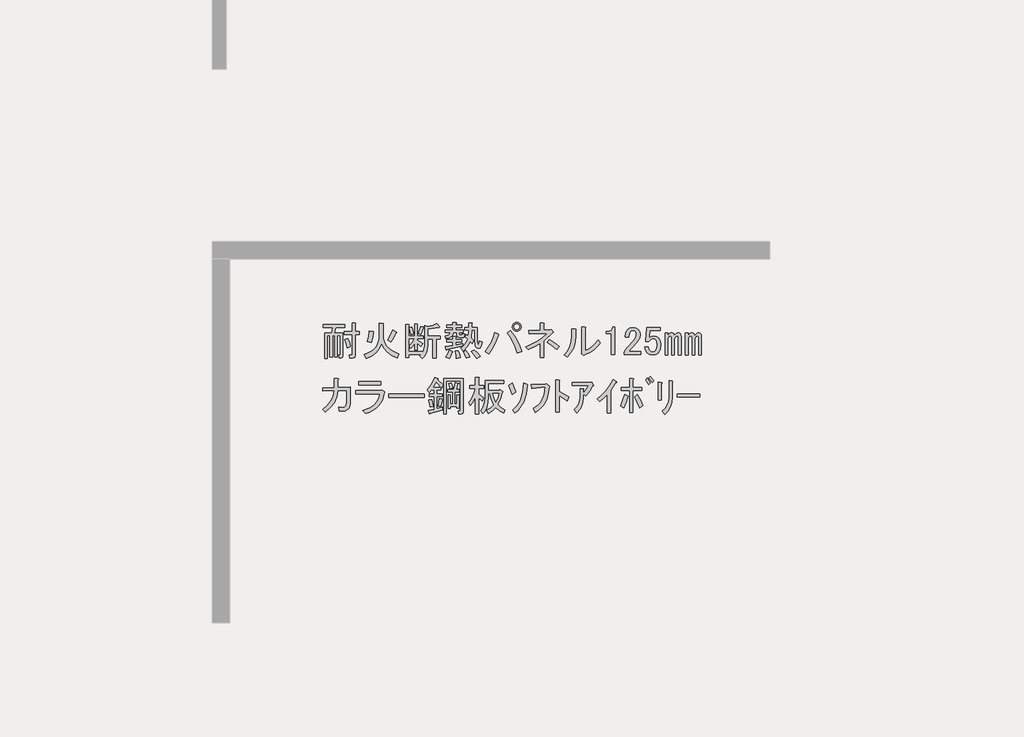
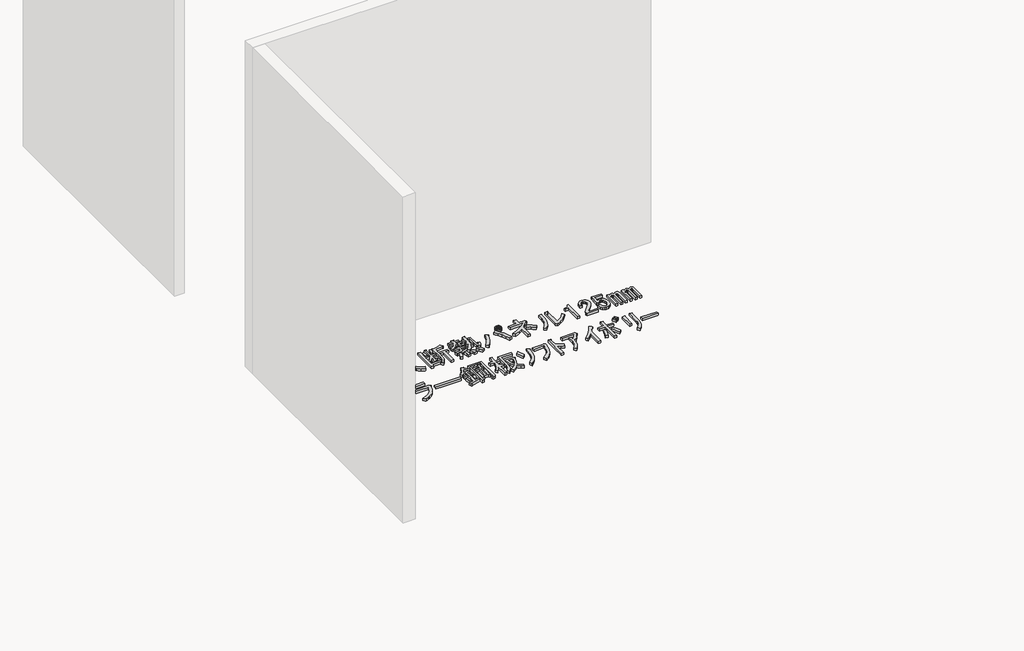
# One storey, part 109 of 117: 1 proxy.
"""IFC4 building model written with IfcOpenShell, lengths in millimetres."""

from ifc_helpers import new_model, si_unit, frame, origin, place, context, project, spatial, polyline, outline, extrude, element, save

model = new_model("IFC4")

# Units and contexts
model_context = context("Model", 3, world=origin())
ifc_project = project(units=[si_unit("LENGTHUNIT", "METRE", prefix="MILLI")], contexts=[model_context])

# Site, building, storey
site = spatial("IfcSite", under=ifc_project)
building = spatial("IfcBuilding", under=site)
storey = spatial("IfcBuildingStorey", under=building, Name="レベル 1", Elevation=500.0)

# Proxy
placement = place(None, origin())
element("IfcBuildingElementProxy", 1, Name="200㎜\u3000MS Pゴシック", ObjectType="200㎜\u3000MS Pゴシック", at=placement, inside=storey, context=model_context, shape_type="SweptSolid", body=[
    extrude(outline(polyline([(56978.5674486, 7229.3142262), (56971.0959694, 7259.7748726), (56960.176115, 7289.0860605), (56982.0158237, 7297.132269), (56994.372501, 7267.5337164), (57001.5566157, 7238.5098931), (56978.5674486, 7229.3142262)])), frame((0.0, 0.0, 500.0), z_axis=(0.0, 0.0, 1.0), x_axis=(1.0, 0.0, 0.0)), (0.0, 0.0, 1.0), 25.0),
    extrude(outline(polyline([(56887.7602388, 7320.121436), (56871.6678219, 7320.121436), (56871.6678219, 7164.9445585), (56852.1270299, 7164.9445585), (56852.1270299, 7320.121436), (56833.7356963, 7320.121436), (56833.7356963, 7152.3005167), (56814.1949043, 7152.3005167), (56814.1949043, 7338.5127697), (56865.9205301, 7338.5127697), (56871.6678219, 7377.5943537), (56804.9992375, 7377.5943537), (56804.9992375, 7399.4340623), (56960.176115, 7399.4340623), (56960.176115, 7377.5943537), (56895.8064473, 7377.5943537), (56885.4613221, 7338.5127697), (56946.3826148, 7338.5127697), (56946.3826148, 7170.6918503), (56942.3595106, 7158.6225376), (56930.2901979, 7154.5994334), (56919.9450727, 7154.5994334), (56915.3472393, 7176.439142), (56922.2439894, 7176.439142), (56925.6923645, 7177.5886004), (56926.8418228, 7181.0369755), (56926.8418228, 7320.121436), (56907.3010308, 7320.121436), (56907.3010308, 7164.9445585), (56887.7602388, 7164.9445585), (56887.7602388, 7320.121436)])), frame((0.0, 0.0, 500.0), z_axis=(0.0, 0.0, 1.0), x_axis=(1.0, 0.0, 0.0)), (0.0, 0.0, 1.0), 25.0),
    extrude(outline(polyline([(56956.72774, 7325.8687278), (56956.72774, 7347.7084365), (57013.0511992, 7347.7084365), (57013.0511992, 7409.7791875), (57034.8909079, 7409.7791875), (57039.7761059, 7407.4802708), (57036.0403663, 7402.8824374), (57036.0403663, 7347.7084365), (57064.7768251, 7347.7084365), (57064.7768251, 7325.8687278), (57036.0403663, 7325.8687278), (57036.0403663, 7172.990767), (57031.4425328, 7159.1972668), (57017.6490326, 7154.5994334), (56994.6598656, 7154.5994334), (56991.2114905, 7176.439142), (57008.4533658, 7176.439142), (57011.9017409, 7177.5886004), (57013.0511992, 7181.0369755), (57013.0511992, 7325.8687278), (56956.72774, 7325.8687278)])), frame((0.0, 0.0, 500.0), z_axis=(0.0, 0.0, 1.0), x_axis=(1.0, 0.0, 0.0)), (0.0, 0.0, 1.0), 25.0),
    extrude(outline(polyline([(57226.8504527, 7261.4990601), (57210.9017181, 7226.6561038), (57187.1941395, 7196.8420278), (57155.7277172, 7172.0568321), (57116.5024509, 7152.3005167), (57102.7089507, 7181.0369755), (57128.032955, 7190.71757), (57149.9804254, 7202.5174784), (57168.5513619, 7216.4367006), (57183.7457645, 7232.4752367), (57195.5636332, 7250.6330866), (57204.0049679, 7270.9102504), (57209.0697688, 7293.3067279), (57210.7580358, 7317.8225193), (57210.7580358, 7408.6297292), (57237.1955779, 7406.3308125), (57240.6439529, 7402.8824374), (57237.1955779, 7397.1351456), (57237.1955779, 7317.8225193), (57238.9916065, 7296.377937), (57244.3796926, 7276.2983364), (57253.3598359, 7257.5837176), (57265.9320367, 7240.2340806), (57282.0962947, 7224.2494254), (57301.8526102, 7209.629752), (57352.1414131, 7184.4853505), (57340.6468295, 7155.7488917), (57301.2060398, 7175.2896837), (57269.0930471, 7199.4283091), (57244.3078514, 7228.1647679), (57226.8504527, 7261.4990601)])), frame((0.0, 0.0, 500.0), z_axis=(0.0, 0.0, 1.0), x_axis=(1.0, 0.0, 0.0)), (0.0, 0.0, 1.0), 25.0),
    extrude(outline(polyline([(57330.3017044, 7337.3633113), (57310.1861832, 7297.9943628), (57293.5190371, 7271.8441853), (57270.5298701, 7286.7871438), (57290.3580266, 7318.3972485), (57308.4619957, 7358.0535617), (57333.7500794, 7345.4095198), (57336.3363607, 7341.6737801), (57330.3017044, 7337.3633113)])), frame((0.0, 0.0, 500.0), z_axis=(0.0, 0.0, 1.0), x_axis=(1.0, 0.0, 0.0)), (0.0, 0.0, 1.0), 25.0),
    extrude(outline(polyline([(57122.2497427, 7276.4420187), (57134.0316908, 7310.6384046), (57137.1927012, 7353.4557283), (57165.92916, 7346.5589781), (57170.5269934, 7342.8232385), (57165.92916, 7338.5127697), (57162.1934204, 7304.0290191), (57150.9862015, 7267.2463519), (57122.2497427, 7276.4420187)])), frame((0.0, 0.0, 500.0), z_axis=(0.0, 0.0, 1.0), x_axis=(1.0, 0.0, 0.0)), (0.0, 0.0, 1.0), 25.0),
    extrude(outline(polyline([(57647.5522095, 7381.0427287), (57645.828022, 7376.4448953), (57638.3565427, 7378.743812), (57561.3428331, 7366.0997701), (57561.3428331, 7316.673061), (57653.2995013, 7316.673061), (57653.2995013, 7294.8333523), (57622.2641258, 7294.8333523), (57622.2641258, 7154.5994334), (57599.2749588, 7154.5994334), (57599.2749588, 7294.8333523), (57561.3428331, 7294.8333523), (57561.3428331, 7245.4066432), (57558.7565518, 7217.6041193), (57550.997708, 7192.8189236), (57538.0663015, 7171.051056), (57519.9623325, 7152.3005167), (57502.7204572, 7171.8413086), (57513.0655823, 7181.0369755), (57423.4078309, 7181.0369755), (57423.4078309, 7159.1972668), (57400.4186638, 7159.1972668), (57400.4186638, 7398.284604), (57422.2583725, 7398.284604), (57427.1435705, 7395.9856873), (57423.4078309, 7391.3878539), (57423.4078309, 7315.5236026), (57465.9377899, 7315.5236026), (57465.9377899, 7402.8824374), (57484.3291235, 7402.8824374), (57489.2143215, 7400.5835207), (57485.4785819, 7395.9856873), (57485.4785819, 7315.5236026), (57529.1579993, 7315.5236026), (57529.1579993, 7297.132269), (57485.4785819, 7297.132269), (57485.4785819, 7287.9366022), (57525.7096242, 7261.4990601), (57511.916124, 7239.6593514), (57485.4785819, 7266.0968935), (57485.4785819, 7213.2218093), (57465.9377899, 7213.2218093), (57465.9377899, 7261.4990601), (57452.7190189, 7241.6709035), (57438.3507895, 7225.8658512), (57425.7067476, 7244.2571848), (57447.5464563, 7268.3958102), (57464.7883316, 7297.132269), (57423.4078309, 7297.132269), (57423.4078309, 7202.8766841), (57521.1117908, 7202.8766841), (57521.1117908, 7189.0831839), (57534.0431973, 7213.2218093), (57538.3536661, 7246.5561015), (57538.3536661, 7391.3878539), (57560.1933748, 7385.6405621), (57596.4013129, 7393.1120414), (57626.8619592, 7406.3308125), (57647.5522095, 7381.0427287)])), frame((0.0, 0.0, 500.0), z_axis=(0.0, 0.0, 1.0), x_axis=(1.0, 0.0, 0.0)), (0.0, 0.0, 1.0), 25.0),
    extrude(outline(polyline([(57493.5247904, 7332.7654779), (57510.7666656, 7385.6405621), (57531.456916, 7379.8932704), (57533.1811035, 7376.7322599), (57529.1579993, 7374.1459786), (57511.916124, 7325.8687278), (57493.5247904, 7332.7654779)])), frame((0.0, 0.0, 500.0), z_axis=(0.0, 0.0, 1.0), x_axis=(1.0, 0.0, 0.0)), (0.0, 0.0, 1.0), 25.0),
    extrude(outline(polyline([(57439.5002478, 7324.7192695), (57426.8562059, 7375.2954369), (57446.3969979, 7382.1921871), (57454.1558418, 7358.0535617), (57459.0410398, 7331.6160196), (57439.5002478, 7324.7192695)])), frame((0.0, 0.0, 500.0), z_axis=(0.0, 0.0, 1.0), x_axis=(1.0, 0.0, 0.0)), (0.0, 0.0, 1.0), 25.0),
    extrude(outline(polyline([(57770.5442532, 7340.8116864), (57745.2561695, 7340.8116864), (57740.6583361, 7323.3542877), (57730.3132109, 7310.0636755), (57714.220794, 7300.9398498), (57692.3810853, 7295.9828107), (57687.7832519, 7315.5236026), (57713.0713356, 7324.1445403), (57720.5428149, 7331.4723373), (57724.5659191, 7340.8116864), (57688.9327102, 7340.8116864), (57688.9327102, 7359.20302), (57742.9572528, 7359.20302), (57742.9572528, 7376.4448953), (57699.2778354, 7376.4448953), (57699.2778354, 7394.8362289), (57742.9572528, 7394.8362289), (57742.9572528, 7413.2275626), (57764.7969614, 7413.2275626), (57769.6821594, 7410.9286459), (57765.9464198, 7406.3308125), (57765.9464198, 7394.8362289), (57808.4763788, 7394.8362289), (57808.4763788, 7376.4448953), (57765.9464198, 7376.4448953), (57765.9464198, 7359.20302), (57818.821504, 7359.20302), (57818.821504, 7340.8116864), (57790.0850452, 7340.8116864), (57790.0850452, 7328.1676445), (57791.5218681, 7322.9950819), (57795.832337, 7321.2708944), (57806.1774621, 7321.2708944), (57809.9132018, 7324.4319049), (57809.6258372, 7333.9149363), (57829.1666292, 7331.6160196), (57826.2929833, 7310.0636755), (57820.9767384, 7304.6755894), (57813.0742122, 7302.8795608), (57788.9355868, 7302.8795608), (57775.1420866, 7307.7647588), (57770.5442532, 7322.4203528), (57770.5442532, 7340.8116864)])), frame((0.0, 0.0, 500.0), z_axis=(0.0, 0.0, 1.0), x_axis=(1.0, 0.0, 0.0)), (0.0, 0.0, 1.0), 25.0),
    extrude(outline(polyline([(57901.5825053, 7358.0535617), (57879.7427966, 7358.0535617), (57875.1449632, 7300.5806441), (57894.6857552, 7282.1893104), (57884.3406301, 7260.3496017), (57868.2482131, 7276.4420187), (57848.9947857, 7238.7972576), (57818.821504, 7206.3250592), (57801.5796287, 7227.0153095), (57816.6662696, 7238.9409399), (57829.7413583, 7254.0275808), (57840.804895, 7272.2752321), (57849.8568795, 7293.683894), (57832.6150042, 7308.6268525), (57840.6612127, 7325.8687278), (57854.4547129, 7315.5236026), (57856.7536296, 7358.0535617), (57829.1666292, 7358.0535617), (57829.1666292, 7376.4448953), (57856.7536296, 7376.4448953), (57856.7536296, 7410.9286459), (57878.5933383, 7410.9286459), (57883.4785363, 7408.6297292), (57879.7427966, 7404.0318957), (57879.7427966, 7376.4448953), (57921.1232973, 7376.4448953), (57921.1232973, 7279.8903937), (57924.5716724, 7255.7517683), (57927.804524, 7253.7402162), (57930.6063287, 7256.9012267), (57934.9167975, 7278.7409354), (57954.4575895, 7271.8441853), (57949.9315973, 7245.0474374), (57942.1009122, 7229.0268616), (57930.9655345, 7223.7824579), (57916.5254639, 7229.3142262), (57909.9879195, 7236.6420232), (57905.318245, 7248.280289), (57901.5825053, 7284.4882271), (57901.5825053, 7358.0535617)])), frame((0.0, 0.0, 500.0), z_axis=(0.0, 0.0, 1.0), x_axis=(1.0, 0.0, 0.0)), (0.0, 0.0, 1.0), 25.0),
    extrude(outline(polyline([(57700.4272937, 7218.9691011), (57698.4157416, 7214.0839031), (57694.680002, 7215.520726), (57688.9327102, 7239.6593514), (57744.1067111, 7247.7055599), (57744.1067111, 7270.6947269), (57700.4272937, 7270.6947269), (57700.4272937, 7289.0860605), (57744.1067111, 7289.0860605), (57744.1067111, 7312.0752276), (57762.4980447, 7312.0752276), (57767.3832427, 7309.7763109), (57763.6475031, 7305.1784775), (57763.6475031, 7289.0860605), (57808.4763788, 7289.0860605), (57808.4763788, 7270.6947269), (57763.6475031, 7270.6947269), (57763.6475031, 7251.1539349), (57814.2236706, 7260.3496017), (57814.2236706, 7244.2571848), (57700.4272937, 7218.9691011)])), frame((0.0, 0.0, 500.0), z_axis=(0.0, 0.0, 1.0), x_axis=(1.0, 0.0, 0.0)), (0.0, 0.0, 1.0), 25.0),
    extrude(outline(polyline([(57898.1341303, 7214.3712677), (57922.8474849, 7193.1062881), (57941.8135477, 7168.3929336), (57915.3760056, 7153.449975), (57896.1225782, 7183.0485276), (57877.4438799, 7202.8766841), (57898.1341303, 7214.3712677)])), frame((0.0, 0.0, 500.0), z_axis=(0.0, 0.0, 1.0), x_axis=(1.0, 0.0, 0.0)), (0.0, 0.0, 1.0), 25.0),
    extrude(outline(polyline([(57839.5117543, 7155.7488917), (57831.1781813, 7180.4622463), (57817.6720456, 7201.7272258), (57838.362296, 7209.7734343), (57855.3168067, 7188.2210902), (57867.0987548, 7164.9445585), (57839.5117543, 7155.7488917)])), frame((0.0, 0.0, 500.0), z_axis=(0.0, 0.0, 1.0), x_axis=(1.0, 0.0, 0.0)), (0.0, 0.0, 1.0), 25.0),
    extrude(outline(polyline([(57738.3594193, 7204.0261425), (57741.8077944, 7199.1409445), (57736.0605026, 7195.979934), (57726.2901067, 7170.4044857), (57715.3702523, 7151.1510583), (57692.3810853, 7162.6456418), (57705.0251271, 7186.209538), (57715.3702523, 7213.2218093), (57738.3594193, 7204.0261425)])), frame((0.0, 0.0, 500.0), z_axis=(0.0, 0.0, 1.0), x_axis=(1.0, 0.0, 0.0)), (0.0, 0.0, 1.0), 25.0),
    extrude(outline(polyline([(57783.1882951, 7208.6239759), (57793.2460557, 7181.32434), (57798.1312537, 7159.1972668), (57769.3947949, 7153.449975), (57766.8085136, 7175.0023191), (57759.0496697, 7205.1756008), (57783.1882951, 7208.6239759)])), frame((0.0, 0.0, 500.0), z_axis=(0.0, 0.0, 1.0), x_axis=(1.0, 0.0, 0.0)), (0.0, 0.0, 1.0), 25.0),
    extrude(outline(polyline([(58206.1889686, 7350.0073532), (58193.5449268, 7352.3062699), (58183.1998016, 7359.20302), (58176.3030515, 7369.5481452), (58174.0041348, 7382.1921871), (58176.3030515, 7394.8362289), (58183.1998016, 7405.1813541), (58193.5449268, 7412.0781042), (58206.1889686, 7414.3770209), (58218.8330105, 7412.0781042), (58229.1781357, 7405.1813541), (58236.0748858, 7394.8362289), (58238.3738025, 7382.1921871), (58236.0748858, 7369.5481452), (58229.1781357, 7359.20302), (58218.8330105, 7352.3062699), (58206.1889686, 7350.0073532)]), holes=[polyline([(58206.1889686, 7361.5019367), (58214.5225417, 7362.9387597), (58221.1319272, 7367.2492285), (58225.442396, 7373.858614), (58226.879219, 7382.1921871), (58225.442396, 7390.5257601), (58221.1319272, 7397.1351456), (58214.5225417, 7401.4456145), (58206.1889686, 7402.8824374), (58197.8553956, 7401.4456145), (58191.2460101, 7397.1351456), (58186.9355412, 7390.5257601), (58185.4987183, 7382.1921871), (58186.9355412, 7373.858614), (58191.2460101, 7367.2492285), (58197.8553956, 7362.9387597), (58206.1889686, 7361.5019367)])]), frame((0.0, 0.0, 500.0), z_axis=(0.0, 0.0, 1.0), x_axis=(1.0, 0.0, 0.0)), (0.0, 0.0, 1.0), 25.0),
    extrude(outline(polyline([(58160.2106345, 7355.754645), (58186.8637001, 7319.0438188), (58209.3499791, 7281.3272167), (58227.6694716, 7242.6048384), (58241.8221775, 7202.8766841), (58210.786802, 7192.531559), (58195.3409554, 7235.6362472), (58177.7398744, 7274.143102), (58157.983559, 7308.0521234), (58136.0720092, 7337.3633113), (58160.2106345, 7355.754645)])), frame((0.0, 0.0, 500.0), z_axis=(0.0, 0.0, 1.0), x_axis=(1.0, 0.0, 0.0)), (0.0, 0.0, 1.0), 25.0),
    extrude(outline(polyline([(58072.8517998, 7329.3171029), (58076.874904, 7323.8571757), (58070.5528831, 7318.9719777), (58058.6272527, 7283.5542922), (58043.5406118, 7249.717112), (58025.2929605, 7217.460437), (58003.8842987, 7186.7842672), (57977.4467566, 7204.0261425), (58000.6514471, 7235.4925649), (58019.689351, 7268.9705394), (58034.5604684, 7304.460066), (58045.2647993, 7341.9611447), (58072.8517998, 7329.3171029)])), frame((0.0, 0.0, 500.0), z_axis=(0.0, 0.0, 1.0), x_axis=(1.0, 0.0, 0.0)), (0.0, 0.0, 1.0), 25.0),
    extrude(outline(polyline([(58449.8741393, 7360.3524784), (58456.7708894, 7362.6513951), (58469.4149312, 7345.4095198), (58470.5643896, 7339.3748634), (58464.8170978, 7337.3633113), (58401.5968885, 7281.0398521), (58401.5968885, 7160.3467251), (58375.1593464, 7160.3467251), (58375.1593464, 7262.6485184), (58334.9283041, 7238.5098931), (58290.0994283, 7216.6701844), (58270.5586363, 7237.3604347), (58316.1059235, 7256.8293855), (58357.3427419, 7279.6030291), (58394.2690915, 7305.6813655), (58426.8849722, 7335.0643946), (58296.9961784, 7329.3171029), (58293.5478034, 7354.6051866), (58375.1593464, 7356.9041033), (58375.1593464, 7408.6297292), (58398.1485134, 7408.6297292), (58404.1831698, 7405.1813541), (58401.5968885, 7399.4340623), (58401.5968885, 7358.0535617), (58449.8741393, 7360.3524784)])), frame((0.0, 0.0, 500.0), z_axis=(0.0, 0.0, 1.0), x_axis=(1.0, 0.0, 0.0)), (0.0, 0.0, 1.0), 25.0),
    extrude(outline(polyline([(58495.8524733, 7216.6701844), (58458.7824415, 7245.9813723), (58425.7355139, 7267.2463519), (58442.9773892, 7289.0860605), (58481.7716085, 7265.8095289), (58515.3932653, 7239.6593514), (58495.8524733, 7216.6701844)])), frame((0.0, 0.0, 500.0), z_axis=(0.0, 0.0, 1.0), x_axis=(1.0, 0.0, 0.0)), (0.0, 0.0, 1.0), 25.0),
    extrude(outline(polyline([(58702.8469334, 7209.7734343), (58727.6321291, 7221.9864292), (58751.4115488, 7239.0846222), (58774.1851924, 7261.0680132), (58795.9530599, 7287.9366022), (58812.0454768, 7266.0968935), (58788.7689452, 7238.2943696), (58762.6187677, 7214.6586322), (58733.5949443, 7195.1896814), (58701.697475, 7179.8875171), (58692.5018082, 7175.2896837), (58674.1104746, 7189.0831839), (58676.4093913, 7194.8304757), (58676.4093913, 7379.8932704), (58700.5480167, 7379.8932704), (58706.2953084, 7376.4448953), (58702.8469334, 7370.6976035), (58702.8469334, 7209.7734343)])), frame((0.0, 0.0, 500.0), z_axis=(0.0, 0.0, 1.0), x_axis=(1.0, 0.0, 0.0)), (0.0, 0.0, 1.0), 25.0),
    extrude(outline(polyline([(58548.8195142, 7178.7380587), (58573.9639157, 7207.9774056), (58591.9242024, 7240.5214452), (58602.7003745, 7276.3701775), (58606.2924318, 7315.5236026), (58606.2924318, 7367.2492285), (58630.4310572, 7367.2492285), (58636.178349, 7363.8008534), (58632.7299739, 7358.0535617), (58632.7299739, 7316.673061), (58628.9223931, 7270.9102504), (58617.4996507, 7230.17632), (58598.4617468, 7194.4712699), (58571.8086812, 7163.7951002), (58548.8195142, 7178.7380587)])), frame((0.0, 0.0, 500.0), z_axis=(0.0, 0.0, 1.0), x_axis=(1.0, 0.0, 0.0)), (0.0, 0.0, 1.0), 25.0),
    extrude(outline(polyline([(58891.3581031, 7356.9041033), (58899.4043116, 7367.8239577), (58902.8526866, 7379.8932704), (58916.6461869, 7379.8932704), (58916.6461869, 7181.0369755), (58890.2086448, 7181.0369755), (58890.2086448, 7333.9149363), (58855.7248942, 7333.9149363), (58855.7248942, 7347.7084365), (58866.0700194, 7347.7084365), (58880.4382488, 7350.0073532), (58891.3581031, 7356.9041033)])), frame((0.0, 0.0, 500.0), z_axis=(0.0, 0.0, 1.0), x_axis=(1.0, 0.0, 0.0)), (0.0, 0.0, 1.0), 25.0),
    extrude(outline(polyline([(58991.3609797, 7309.7763109), (58995.9588132, 7341.099051), (59009.7523134, 7363.8008534), (59026.1320949, 7375.0080724), (59045.3855223, 7378.743812), (59068.0873247, 7375.0080724), (59085.6165646, 7363.8008534), (59096.8237835, 7347.1337073), (59100.5595232, 7327.0181862), (59096.2490544, 7301.1553732), (59083.3176479, 7278.7409354), (59049.9833557, 7240.8088098), (59031.5920221, 7220.1185594), (59017.7985218, 7201.7272258), (59104.0078982, 7201.7272258), (59104.0078982, 7179.8875171), (58986.7631463, 7179.8875171), (58986.7631463, 7199.4283091), (58992.7978027, 7213.2218093), (59006.3039383, 7231.6131429), (59053.4317308, 7283.3387688), (59068.0873247, 7304.6037483), (59072.9725227, 7327.0181862), (59070.673606, 7339.662228), (59063.7768559, 7350.0073532), (59056.018012, 7355.1799158), (59046.5349806, 7356.9041033), (59037.914043, 7355.1799158), (59030.4425637, 7350.0073532), (59020.9595323, 7333.6275717), (59017.7985218, 7309.7763109), (58991.3609797, 7309.7763109)])), frame((0.0, 0.0, 500.0), z_axis=(0.0, 0.0, 1.0), x_axis=(1.0, 0.0, 0.0)), (0.0, 0.0, 1.0), 25.0),
    extrude(outline(polyline([(59147.6873156, 7376.4448953), (59246.5407339, 7376.4448953), (59246.5407339, 7354.6051866), (59169.5270243, 7354.6051866), (59169.5270243, 7351.1568116), (59166.0786493, 7308.6268525), (59164.9291909, 7301.7301024), (59180.4468787, 7312.0752276), (59197.1140248, 7315.5236026), (59218.0916397, 7311.787863), (59235.0461504, 7300.5806441), (59247.1154631, 7280.7524875), (59251.1385673, 7253.4528516), (59245.9660047, 7218.9691011), (59239.5003015, 7205.1756008), (59230.448317, 7193.6810173), (59212.3443479, 7181.6117046), (59190.2172746, 7177.5886004), (59169.2396597, 7181.32434), (59152.285149, 7192.531559), (59140.2158363, 7211.2102572), (59133.8938154, 7237.3604347), (59160.3313575, 7237.3604347), (59164.3544617, 7218.6817365), (59171.825941, 7206.3250592), (59179.5847849, 7201.1524966), (59189.0678163, 7199.4283091), (59201.4244936, 7201.4398612), (59210.907525, 7207.4745175), (59220.3905564, 7224.4290282), (59223.5515669, 7250.0044766), (59220.9652856, 7274.143102), (59213.2064417, 7289.0860605), (59205.7349624, 7294.2586231), (59197.1140248, 7295.9828107), (59184.1826183, 7293.3965294), (59172.9753994, 7285.6376855), (59163.7797326, 7275.2925603), (59140.7905655, 7275.2925603), (59141.9400239, 7283.3387688), (59147.6873156, 7371.8470619), (59147.6873156, 7376.4448953)])), frame((0.0, 0.0, 500.0), z_axis=(0.0, 0.0, 1.0), x_axis=(1.0, 0.0, 0.0)), (0.0, 0.0, 1.0), 25.0),
    extrude(outline(polyline([(59522.4107384, 7339.662228), (59530.7443114, 7338.2254051), (59537.353697, 7333.9149363), (59542.5262595, 7325.2939986), (59544.2504471, 7313.2246859), (59544.2504471, 7178.7380587), (59524.7096551, 7178.7380587), (59524.7096551, 7302.8795608), (59522.1233738, 7312.3625922), (59514.3645299, 7315.5236026), (59504.0194048, 7310.9257692), (59497.9847484, 7302.3048316), (59495.9731963, 7292.5344356), (59495.9731963, 7178.7380587), (59476.4324043, 7178.7380587), (59476.4324043, 7302.8795608), (59473.846123, 7312.3625922), (59466.0872791, 7315.5236026), (59455.742154, 7310.9257692), (59449.7074976, 7302.3048316), (59447.6959455, 7292.5344356), (59447.6959455, 7178.7380587), (59428.1551535, 7178.7380587), (59428.1551535, 7336.213853), (59447.6959455, 7336.213853), (59447.6959455, 7318.9719777), (59459.7652582, 7334.4896654), (59472.9840292, 7339.662228), (59482.1796961, 7338.2254051), (59489.0764462, 7333.9149363), (59495.9731963, 7320.121436), (59508.9046028, 7334.77703), (59522.4107384, 7339.662228)])), frame((0.0, 0.0, 500.0), z_axis=(0.0, 0.0, 1.0), x_axis=(1.0, 0.0, 0.0)), (0.0, 0.0, 1.0), 25.0),
    extrude(outline(polyline([(59300.5652764, 7178.7380587), (59281.0244845, 7178.7380587), (59281.0244845, 7336.213853), (59300.5652764, 7336.213853), (59300.5652764, 7318.9719777), (59312.6345891, 7334.4896654), (59325.8533602, 7339.662228), (59335.049027, 7338.2254051), (59341.9457771, 7333.9149363), (59348.8425272, 7320.121436), (59361.7739337, 7334.77703), (59375.2800693, 7339.662228), (59383.6136424, 7338.2254051), (59390.2230279, 7333.9149363), (59395.3955905, 7325.2939986), (59397.119778, 7313.2246859), (59397.119778, 7178.7380587), (59377.578986, 7178.7380587), (59377.578986, 7302.8795608), (59374.9927047, 7312.3625922), (59367.2338609, 7315.5236026), (59356.8887357, 7310.9257692), (59350.8540793, 7302.3048316), (59348.8425272, 7292.5344356), (59348.8425272, 7178.7380587), (59329.3017352, 7178.7380587), (59329.3017352, 7302.8795608), (59326.715454, 7312.3625922), (59318.9566101, 7315.5236026), (59308.6114849, 7310.9257692), (59302.5768286, 7302.3048316), (59300.5652764, 7292.5344356), (59300.5652764, 7178.7380587)])), frame((0.0, 0.0, 500.0), z_axis=(0.0, 0.0, 1.0), x_axis=(1.0, 0.0, 0.0)), (0.0, 0.0, 1.0), 25.0),
    extrude(outline(polyline([(56975.1190736, 6921.2708944), (56909.5999475, 6918.9719777), (56901.3382156, 6872.706279), (56883.44977, 6831.6131429), (56855.9346107, 6795.6925694), (56818.7927377, 6764.9445585), (56799.2519457, 6784.4853505), (56834.2385843, 6812.7189213), (56859.8858738, 6844.5445494), (56876.1938142, 6879.9622349), (56883.1624054, 6918.9719777), (56801.5508624, 6916.673061), (56799.2519457, 6939.662228), (56884.3118638, 6941.9611447), (56884.3118638, 7006.3308125), (56908.4504892, 7006.3308125), (56915.3472393, 7002.8824374), (56910.7494059, 6997.1351456), (56910.7494059, 6941.9611447), (57001.5566157, 6945.4095198), (57001.5566157, 6874.143102), (56998.9703344, 6826.1532158), (56991.2114905, 6794.8304757), (56984.602105, 6784.7727151), (56975.1190736, 6777.5886004), (56962.7623963, 6773.2781316), (56947.5320731, 6771.8413086), (56919.9450727, 6771.8413086), (56916.4966976, 6800.5777674), (56946.3826148, 6798.2788507), (56960.4634796, 6801.1524966), (56968.2223235, 6809.7734343), (56973.3948861, 6835.061518), (56975.1190736, 6874.143102), (56975.1190736, 6921.2708944)])), frame((0.0, 0.0, 500.0), z_axis=(0.0, 0.0, 1.0), x_axis=(1.0, 0.0, 0.0)), (0.0, 0.0, 1.0), 25.0),
    extrude(outline(polyline([(57089.9729521, 6775.2896837), (57139.6151847, 6793.6091762), (57159.8564279, 6805.7323697), (57177.0444223, 6819.8311948), (57191.179168, 6835.9056515), (57202.2606649, 6853.9557397), (57210.2889131, 6873.9814594), (57215.2639125, 6895.9828107), (57040.546243, 6895.9828107), (57040.546243, 6921.2708944), (57216.4133709, 6921.2708944), (57226.758496, 6924.7192695), (57247.4487464, 6912.0752276), (57250.3223922, 6906.6153004), (57245.1498297, 6901.7301024), (57239.0253719, 6874.2508637), (57229.8476653, 6849.2860651), (57217.6167101, 6826.8357067), (57202.332506, 6806.8997884), (57183.9950533, 6789.4783102), (57162.6043517, 6774.5712722), (57138.1604015, 6762.1786744), (57110.6632025, 6752.3005167), (57089.9729521, 6775.2896837)])), frame((0.0, 0.0, 500.0), z_axis=(0.0, 0.0, 1.0), x_axis=(1.0, 0.0, 0.0)), (0.0, 0.0, 1.0), 25.0),
    extrude(outline(polyline([(57219.8617459, 6961.5019367), (57061.2364933, 6961.5019367), (57061.2364933, 6986.7900205), (57219.8617459, 6986.7900205), (57219.8617459, 6961.5019367)])), frame((0.0, 0.0, 500.0), z_axis=(0.0, 0.0, 1.0), x_axis=(1.0, 0.0, 0.0)), (0.0, 0.0, 1.0), 25.0),
    extrude(outline(polyline([(57278.8979269, 6870.6947269), (57278.8979269, 6895.9828107), (57535.2271394, 6895.9828107), (57535.2271394, 6870.6947269), (57278.8979269, 6870.6947269)])), frame((0.0, 0.0, 500.0), z_axis=(0.0, 0.0, 1.0), x_axis=(1.0, 0.0, 0.0)), (0.0, 0.0, 1.0), 25.0),
    extrude(outline(polyline([(57730.3591892, 6974.1459786), (57737.5433039, 6958.9156554), (57743.0032311, 6938.5127697), (57725.7613558, 6932.7654779), (57714.2667723, 6969.5481452), (57730.3591892, 6974.1459786)])), frame((0.0, 0.0, 500.0), z_axis=(0.0, 0.0, 1.0), x_axis=(1.0, 0.0, 0.0)), (0.0, 0.0, 1.0), 25.0),
    extrude(outline(polyline([(57783.2342734, 6972.9965202), (57785.8205547, 6969.5481452), (57779.7858984, 6966.0997701), (57767.1418565, 6928.1676445), (57787.8321068, 6928.1676445), (57787.8321068, 6909.7763109), (57756.7967313, 6909.7763109), (57756.7967313, 6821.2680178), (57771.7396899, 6821.2680178), (57771.7396899, 6889.0860605), (57787.8321068, 6889.0860605), (57787.8321068, 6794.8304757), (57771.7396899, 6794.8304757), (57771.7396899, 6802.8766841), (57725.7613558, 6802.8766841), (57725.7613558, 6790.2326423), (57709.6689389, 6790.2326423), (57709.6689389, 6886.7871438), (57725.7613558, 6886.7871438), (57725.7613558, 6821.2680178), (57740.7043144, 6821.2680178), (57740.7043144, 6909.7763109), (57705.0711055, 6909.7763109), (57705.0711055, 6928.1676445), (57751.0494396, 6928.1676445), (57761.3945647, 6977.5943537), (57783.2342734, 6972.9965202)])), frame((0.0, 0.0, 500.0), z_axis=(0.0, 0.0, 1.0), x_axis=(1.0, 0.0, 0.0)), (0.0, 0.0, 1.0), 25.0),
    extrude(outline(polyline([(57677.484105, 7006.3308125), (57817.718024, 7006.3308125), (57817.718024, 6766.0940169), (57813.9822843, 6754.8867979), (57802.7750654, 6751.1510583), (57786.6826485, 6751.1510583), (57782.0848151, 6772.990767), (57793.5793986, 6772.990767), (57797.0277736, 6774.1402253), (57798.177232, 6777.5886004), (57798.177232, 6987.9394788), (57697.024897, 6987.9394788), (57697.024897, 6748.8521416), (57677.484105, 6748.8521416), (57677.484105, 7006.3308125)])), frame((0.0, 0.0, 500.0), z_axis=(0.0, 0.0, 1.0), x_axis=(1.0, 0.0, 0.0)), (0.0, 0.0, 1.0), 25.0),
    extrude(outline(polyline([(57665.9895215, 6858.050685), (57668.5758028, 6854.8896746), (57664.8400632, 6852.3033933), (57656.7938547, 6805.1756008), (57638.4025211, 6807.4745175), (57644.1498128, 6861.4990601), (57665.9895215, 6858.050685)])), frame((0.0, 0.0, 500.0), z_axis=(0.0, 0.0, 1.0), x_axis=(1.0, 0.0, 0.0)), (0.0, 0.0, 1.0), 25.0),
    extrude(outline(polyline([(57588.9758119, 6856.9012267), (57600.4703954, 6805.1756008), (57579.7801451, 6799.4283091), (57568.2855616, 6851.1539349), (57588.9758119, 6856.9012267)])), frame((0.0, 0.0, 500.0), z_axis=(0.0, 0.0, 1.0), x_axis=(1.0, 0.0, 0.0)), (0.0, 0.0, 1.0), 25.0),
    extrude(outline(polyline([(57662.5411464, 6937.3633113), (57621.1606458, 6981.0427287), (57599.3209371, 6941.9611447), (57654.494938, 6941.9611447), (57654.494938, 6923.5698111), (57628.0573959, 6923.5698111), (57628.0573959, 6894.8333523), (57665.9895215, 6894.8333523), (57665.9895215, 6876.4420187), (57628.0573959, 6876.4420187), (57628.0573959, 6789.0831839), (57667.1389799, 6799.4283091), (57669.4378966, 6779.8875171), (57577.4812284, 6754.5994334), (57575.1823117, 6748.8521416), (57570.5844783, 6752.3005167), (57563.6877282, 6775.2896837), (57608.5166039, 6784.4853505), (57608.5166039, 6876.4420187), (57570.5844783, 6876.4420187), (57570.5844783, 6894.8333523), (57608.5166039, 6894.8333523), (57608.5166039, 6923.5698111), (57586.6768952, 6923.5698111), (57571.7339366, 6905.1784775), (57559.0898948, 6925.8687278), (57587.2516244, 6963.5134888), (57611.964979, 7014.3770209), (57633.8046876, 7008.6297292), (57637.2530627, 7004.8939895), (57631.5057709, 7002.8824374), (57630.3563126, 6999.4340623), (57675.1851883, 6961.5019367), (57662.5411464, 6937.3633113)])), frame((0.0, 0.0, 500.0), z_axis=(0.0, 0.0, 1.0), x_axis=(1.0, 0.0, 0.0)), (0.0, 0.0, 1.0), 25.0),
    extrude(outline(polyline([(57906.2263171, 6748.8521416), (57906.2263171, 6868.3958102), (57888.4097126, 6834.1994242), (57869.4436498, 6812.072351), (57857.9490663, 6832.7626013), (57875.1909416, 6855.4644037), (57888.9844418, 6879.8903937), (57899.329567, 6906.0405712), (57906.2263171, 6933.9149363), (57864.8458164, 6933.9149363), (57864.8458164, 6955.754645), (57906.2263171, 6955.754645), (57906.2263171, 7015.5264793), (57928.0660258, 7015.5264793), (57932.9512238, 7013.2275626), (57929.2154841, 7008.6297292), (57929.2154841, 6955.754645), (57967.1476097, 6955.754645), (57967.1476097, 6933.9149363), (57929.2154841, 6933.9149363), (57929.2154841, 6893.683894), (57967.1476097, 6867.2463519), (57956.8024846, 6844.2571848), (57929.2154841, 6867.2463519), (57929.2154841, 6748.8521416), (57906.2263171, 6748.8521416)])), frame((0.0, 0.0, 500.0), z_axis=(0.0, 0.0, 1.0), x_axis=(1.0, 0.0, 0.0)), (0.0, 0.0, 1.0), 25.0),
    extrude(outline(polyline([(57988.9873184, 6777.5886004), (58017.7237772, 6794.8304757), (58039.5634859, 6816.6701844), (58021.7468815, 6858.6254142), (58011.9764855, 6899.4311857), (57999.3324436, 6899.4311857), (57999.3324436, 6875.2925603), (57996.8898446, 6833.5528539), (57989.5620476, 6799.1409445), (57977.3490526, 6772.0568321), (57960.2508596, 6752.3005167), (57946.4573594, 6775.2896837), (57959.5324482, 6792.6752413), (57968.8717973, 6814.9459968), (57974.4754067, 6842.1019504), (57976.3432766, 6874.143102), (57976.3432766, 6994.8362289), (58113.1288204, 6994.8362289), (58113.1288204, 6972.9965202), (57999.3324436, 6972.9965202), (57999.3324436, 6921.2708944), (58078.6450699, 6921.2708944), (58084.3923616, 6927.0181862), (58103.9331536, 6913.2246859), (58105.3699766, 6909.4889463), (58100.4847786, 6905.1784775), (58088.1281013, 6858.6254142), (58069.4494031, 6817.8196427), (58088.4154659, 6799.4283091), (58120.0255706, 6781.0369755), (58110.8299037, 6756.8983501), (58082.9555387, 6772.990767), (58054.5064445, 6798.2788507), (58030.0804545, 6773.8528608), (57998.1829852, 6753.449975), (57988.9873184, 6777.5886004)]), holes=[polyline([(58033.8161942, 6899.4311857), (58041.8624026, 6866.3842581), (58054.5064445, 6838.5098931), (58067.1504864, 6864.6600706), (58075.1966948, 6899.4311857), (58033.8161942, 6899.4311857)])]), frame((0.0, 0.0, 500.0), z_axis=(0.0, 0.0, 1.0), x_axis=(1.0, 0.0, 0.0)), (0.0, 0.0, 1.0), 25.0),
    extrude(outline(polyline([(58171.7511964, 6976.4448953), (58199.3381969, 6910.9257692), (58175.1995715, 6892.5344356), (58148.7620294, 6958.0535617), (58171.7511964, 6976.4448953)])), frame((0.0, 0.0, 500.0), z_axis=(0.0, 0.0, 1.0), x_axis=(1.0, 0.0, 0.0)), (0.0, 0.0, 1.0), 25.0),
    extrude(outline(polyline([(58280.9497398, 6964.9503118), (58284.9728441, 6960.9272075), (58280.9497398, 6958.0535617), (58273.2627371, 6893.7557351), (58255.9490207, 6838.7972576), (58243.6821448, 6814.8202748), (58229.0085906, 6793.1781293), (58211.9283579, 6773.870821), (58192.4414467, 6756.8983501), (58176.3490298, 6781.0369755), (58194.2195151, 6795.6566489), (58209.8988455, 6813.078127), (58223.3870208, 6833.3014099), (58234.6840412, 6856.3264975), (58250.704617, 6910.7820869), (58257.9605728, 6976.4448953), (58280.9497398, 6964.9503118)])), frame((0.0, 0.0, 500.0), z_axis=(0.0, 0.0, 1.0), x_axis=(1.0, 0.0, 0.0)), (0.0, 0.0, 1.0), 25.0),
    extrude(outline(polyline([(58314.0541404, 6936.213853), (58310.6057653, 6962.6513951), (58417.5053921, 6966.0997701), (58423.2526838, 6967.2492285), (58442.7934758, 6953.4557283), (58444.5176633, 6948.8578948), (58440.4945591, 6946.5589781), (58431.658098, 6885.4940032), (58423.198803, 6858.7331759), (58412.0454649, 6834.4867888), (58398.1980838, 6812.7548419), (58381.6566597, 6793.537335), (58362.4211926, 6776.8342684), (58340.4916825, 6762.6456418), (58324.3992656, 6789.0831839), (58361.0382505, 6814.7304734), (58375.8016062, 6830.8408506), (58388.1942041, 6849.1423828), (58405.8671263, 6892.3189122), (58414.057017, 6944.2600614), (58314.0541404, 6936.213853)])), frame((0.0, 0.0, 500.0), z_axis=(0.0, 0.0, 1.0), x_axis=(1.0, 0.0, 0.0)), (0.0, 0.0, 1.0), 25.0),
    extrude(outline(polyline([(58512.6805436, 6913.2246859), (58548.3137525, 6894.2586231), (58581.6480447, 6871.8441853), (58571.3029196, 6844.2571848), (58540.5549087, 6867.5337164), (58512.6805436, 6884.4882271), (58512.6805436, 6764.9445585), (58489.6913766, 6764.9445585), (58489.6913766, 6998.284604), (58511.5310853, 6995.9856873), (58517.5657416, 6992.8246768), (58512.6805436, 6987.9394788), (58512.6805436, 6913.2246859)])), frame((0.0, 0.0, 500.0), z_axis=(0.0, 0.0, 1.0), x_axis=(1.0, 0.0, 0.0)), (0.0, 0.0, 1.0), 25.0),
    extrude(outline(polyline([(58688.2718015, 6897.132269), (58727.3533854, 6955.754645), (58607.8097168, 6955.754645), (58607.8097168, 6977.5943537), (58738.847969, 6977.5943537), (58748.0436358, 6982.1921871), (58761.837136, 6961.5019367), (58762.6992298, 6956.6167387), (58758.388761, 6955.754645), (58733.3880418, 6916.0983318), (58706.6631351, 6879.8903937), (58688.2718015, 6894.8333523), (58688.2718015, 6868.3958102), (58685.3263144, 6837.4322758), (58676.4898534, 6808.9113405), (58661.7624182, 6782.8330041), (58641.144009, 6759.1972668), (58623.9021338, 6783.3358922), (58642.0061028, 6802.301955), (58654.9375093, 6823.5669345), (58662.6963531, 6847.1308307), (58665.2826344, 6872.9936436), (58665.2826344, 6935.0643946), (58687.1223431, 6932.7654779), (58692.5822703, 6929.891832), (58688.2718015, 6925.8687278), (58688.2718015, 6897.132269)])), frame((0.0, 0.0, 500.0), z_axis=(0.0, 0.0, 1.0), x_axis=(1.0, 0.0, 0.0)), (0.0, 0.0, 1.0), 25.0),
    extrude(outline(polyline([(58790.2517465, 6860.3496017), (58822.5084215, 6886.4279381), (58852.6098621, 6918.6846131), (58880.5560683, 6957.1196268), (58906.34704, 7001.732979), (58927.0372904, 6984.4911038), (58929.9109362, 6979.3185412), (58924.7383737, 6977.5943537), (58885.6567897, 6920.121436), (58885.6567897, 6759.1972668), (58862.6676226, 6759.1972668), (58862.6676226, 6892.5344356), (58835.942716, 6864.9474352), (58806.3441634, 6839.6593514), (58790.2517465, 6860.3496017)])), frame((0.0, 0.0, 500.0), z_axis=(0.0, 0.0, 1.0), x_axis=(1.0, 0.0, 0.0)), (0.0, 0.0, 1.0), 25.0),
    extrude(outline(polyline([(59047.6384607, 6943.1106031), (59112.0081284, 6943.1106031), (59112.0081284, 6921.2708944), (59047.6384607, 6921.2708944), (59047.6384607, 6760.3467251), (59024.6492936, 6760.3467251), (59024.6492936, 6921.2708944), (58962.5785426, 6921.2708944), (58962.5785426, 6943.1106031), (59024.6492936, 6943.1106031), (59024.6492936, 7008.6297292), (59046.4890023, 7006.3308125), (59052.5236587, 7003.169802), (59047.6384607, 6998.284604), (59047.6384607, 6943.1106031)])), frame((0.0, 0.0, 500.0), z_axis=(0.0, 0.0, 1.0), x_axis=(1.0, 0.0, 0.0)), (0.0, 0.0, 1.0), 25.0),
    extrude(outline(polyline([(59009.706335, 6881.0398521), (59013.7294393, 6877.8788416), (59009.706335, 6875.2925603), (58998.2117515, 6835.9236118), (58982.1193346, 6793.6810173), (58957.9807092, 6808.6239759), (58975.5099491, 6850.0044766), (58989.0160847, 6891.3849772), (59009.706335, 6881.0398521)])), frame((0.0, 0.0, 500.0), z_axis=(0.0, 0.0, 1.0), x_axis=(1.0, 0.0, 0.0)), (0.0, 0.0, 1.0), 25.0),
    extrude(outline(polyline([(59078.6738362, 6890.2355189), (59103.3871907, 6848.5676536), (59120.0543368, 6813.2218093), (59098.2146281, 6793.6810173), (59061.4319609, 6872.9936436), (59078.6738362, 6890.2355189)])), frame((0.0, 0.0, 500.0), z_axis=(0.0, 0.0, 1.0), x_axis=(1.0, 0.0, 0.0)), (0.0, 0.0, 1.0), 25.0),
    extrude(outline(polyline([(59152.0552574, 7009.7791875), (59175.0444244, 6976.4448953), (59162.4003825, 6963.8008534), (59140.5606738, 6998.284604), (59152.0552574, 7009.7791875)])), frame((0.0, 0.0, 500.0), z_axis=(0.0, 0.0, 1.0), x_axis=(1.0, 0.0, 0.0)), (0.0, 0.0, 1.0), 25.0),
    extrude(outline(polyline([(59175.0444244, 7021.273771), (59199.1830498, 6990.2383955), (59186.5390079, 6977.5943537), (59163.5498409, 7009.7791875), (59175.0444244, 7021.273771)])), frame((0.0, 0.0, 500.0), z_axis=(0.0, 0.0, 1.0), x_axis=(1.0, 0.0, 0.0)), (0.0, 0.0, 1.0), 25.0),
    extrude(outline(polyline([(59332.5202186, 6869.5452686), (59329.1436847, 6832.618919), (59319.014083, 6800.0030383), (59302.1314134, 6771.6976263), (59278.4956761, 6747.7026832), (59261.2538008, 6770.6918503), (59282.375098, 6790.5200069), (59297.4617389, 6814.3712677), (59306.5137234, 6842.2456327), (59309.5310516, 6874.143102), (59309.5310516, 6992.5373122), (59331.3707603, 6990.2383955), (59337.4054166, 6986.5026559), (59332.5202186, 6982.1921871), (59332.5202186, 6869.5452686)])), frame((0.0, 0.0, 500.0), z_axis=(0.0, 0.0, 1.0), x_axis=(1.0, 0.0, 0.0)), (0.0, 0.0, 1.0), 25.0),
    extrude(outline(polyline([(59231.3678837, 6981.0427287), (59253.2075923, 6978.743812), (59259.2422487, 6975.5828015), (59254.3570507, 6970.6976035), (59254.3570507, 6852.3033933), (59231.3678837, 6852.3033933), (59231.3678837, 6981.0427287)])), frame((0.0, 0.0, 500.0), z_axis=(0.0, 0.0, 1.0), x_axis=(1.0, 0.0, 0.0)), (0.0, 0.0, 1.0), 25.0),
    extrude(outline(polyline([(59369.9465826, 6871.8441853), (59369.9465826, 6893.683894), (59533.1696686, 6893.683894), (59533.1696686, 6871.8441853), (59369.9465826, 6871.8441853)])), frame((0.0, 0.0, 500.0), z_axis=(0.0, 0.0, 1.0), x_axis=(1.0, 0.0, 0.0)), (0.0, 0.0, 1.0), 25.0),
])

save(model, "model.ifc")
